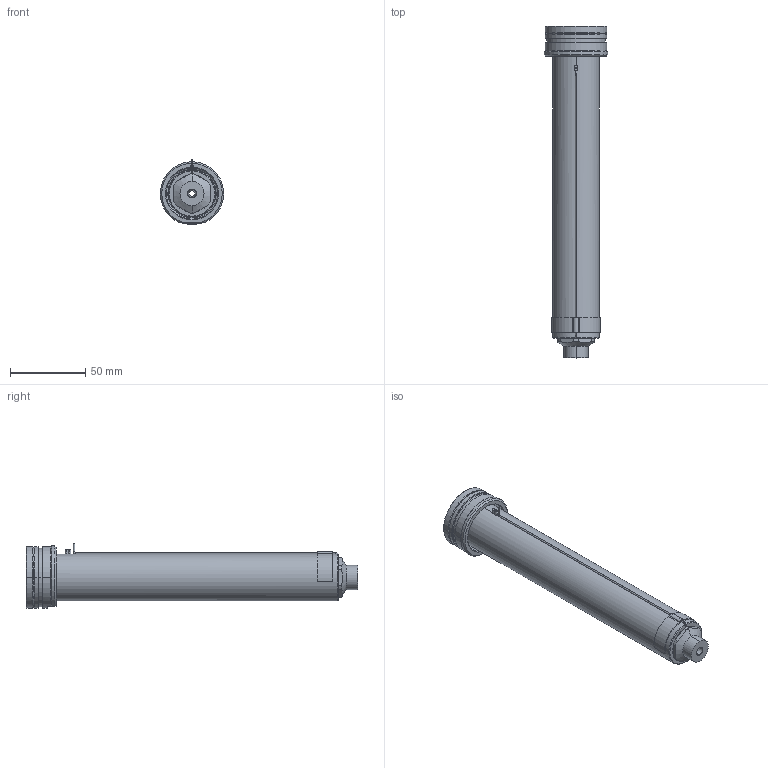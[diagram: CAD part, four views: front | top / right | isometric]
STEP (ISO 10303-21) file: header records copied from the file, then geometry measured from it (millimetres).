
FILE_DESCRIPTION((''),'2;1');
FILE_NAME('EO12_VG-ST_STD_200_SW','2024-02-19T12:51:35',('sundharh'),(''),'CREO PARAMETRIC BY PTC INC, 2023154','CREO PARAMETRIC BY PTC INC, 2023154','');
FILE_SCHEMA(('CONFIG_CONTROL_DESIGN'));
Length unit declared in the file: millimetre
Products named in the file (1): EO12_VG-ST_STD_200_SW
Bounding box: 41.85 x 220 x 43 mm (x, y, z)
Volume: 145453 mm3; surface area: 36704.3 mm2
Topology: 2 solids, 3 shells, 181 faces, 453 edges, 277 vertices
Faces by surface type: cylinder 65, plane 45, cone 37, torus 27, bspline 5, sphere 2
Entity records: 6196 total; most frequent: CARTESIAN_POINT 1761, DIRECTION 986, ORIENTED_EDGE 898, EDGE_CURVE 449, AXIS2_PLACEMENT_3D 412, VERTEX_POINT 277, CIRCLE 236, EDGE_LOOP 196
